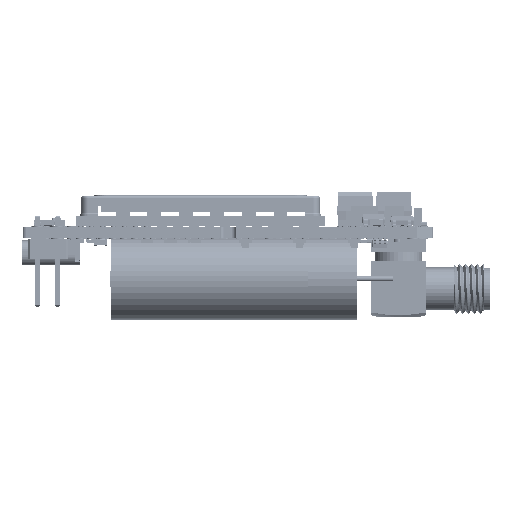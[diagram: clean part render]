
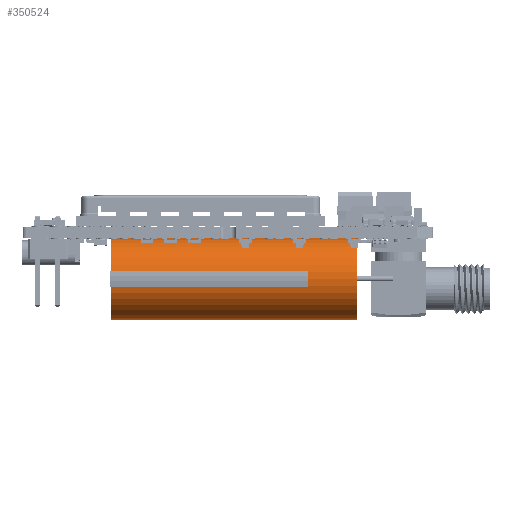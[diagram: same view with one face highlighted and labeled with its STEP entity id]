
A CAD part, front view. The second image highlights one B-rep face of the part: STEP entity #350524.
In plain terms, the highlighted cylindrical face has radius 5.245 mm (diameter 10.49 mm), a full revolution.
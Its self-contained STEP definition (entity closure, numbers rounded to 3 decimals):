
#350524 = ADVANCED_FACE('',(#350525),#350538,.T.);
#350525 = FACE_BOUND('',#350526,.T.);
#350526 = EDGE_LOOP('',(#350527,#350561,#350583,#350614));
#350527 = ORIENTED_EDGE('',*,*,#350528,.F.);
#350528 = EDGE_CURVE('',#350529,#350529,#350531,.T.);
#350529 = VERTEX_POINT('',#350530);
#350530 = CARTESIAN_POINT('',(-2.745,0.,31.242));
#350531 = SURFACE_CURVE('',#350532,(#350537,#350549),.PCURVE_S1.);
#350532 = CIRCLE('',#350533,5.245);
#350533 = AXIS2_PLACEMENT_3D('',#350534,#350535,#350536);
#350534 = CARTESIAN_POINT('',(2.5,0.,31.242));
#350535 = DIRECTION('',(0.,0.,1.));
#350536 = DIRECTION('',(1.,0.,-0.));
#350537 = PCURVE('',#350538,#350543);
#350538 = CYLINDRICAL_SURFACE('',#350539,5.245);
#350539 = AXIS2_PLACEMENT_3D('',#350540,#350541,#350542);
#350540 = CARTESIAN_POINT('',(2.5,0.,0.));
#350541 = DIRECTION('',(0.,0.,1.));
#350542 = DIRECTION('',(1.,0.,-0.));
#350543 = DEFINITIONAL_REPRESENTATION('',(#350544),#350548);
#350544 = LINE('',#350545,#350546);
#350545 = CARTESIAN_POINT('',(0.,31.242));
#350546 = VECTOR('',#350547,1.);
#350547 = DIRECTION('',(1.,0.));
#350548 = ( GEOMETRIC_REPRESENTATION_CONTEXT(2) 
PARAMETRIC_REPRESENTATION_CONTEXT() REPRESENTATION_CONTEXT('2D SPACE',''
  ) );
#350549 = PCURVE('',#350550,#350555);
#350550 = PLANE('',#350551);
#350551 = AXIS2_PLACEMENT_3D('',#350552,#350553,#350554);
#350552 = CARTESIAN_POINT('',(2.5,0.,31.242));
#350553 = DIRECTION('',(0.,0.,1.));
#350554 = DIRECTION('',(0.,1.,0.));
#350555 = DEFINITIONAL_REPRESENTATION('',(#350556),#350560);
#350556 = CIRCLE('',#350557,5.245);
#350557 = AXIS2_PLACEMENT_2D('',#350558,#350559);
#350558 = CARTESIAN_POINT('',(0.,0.));
#350559 = DIRECTION('',(0.,-1.));
#350560 = ( GEOMETRIC_REPRESENTATION_CONTEXT(2) 
PARAMETRIC_REPRESENTATION_CONTEXT() REPRESENTATION_CONTEXT('2D SPACE',''
  ) );
#350561 = ORIENTED_EDGE('',*,*,#350562,.F.);
#350562 = EDGE_CURVE('',#350563,#350529,#350565,.T.);
#350563 = VERTEX_POINT('',#350564);
#350564 = CARTESIAN_POINT('',(-2.745,0.,0.));
#350565 = SEAM_CURVE('',#350566,(#350569,#350576),.PCURVE_S1.);
#350566 = B_SPLINE_CURVE_WITH_KNOTS('',1,(#350567,#350568),
  .UNSPECIFIED.,.F.,.F.,(2,2),(0.,31.242),.PIECEWISE_BEZIER_KNOTS.);
#350567 = CARTESIAN_POINT('',(-2.745,0.,0.));
#350568 = CARTESIAN_POINT('',(-2.745,0.,31.242));
#350569 = PCURVE('',#350538,#350570);
#350570 = DEFINITIONAL_REPRESENTATION('',(#350571),#350575);
#350571 = LINE('',#350572,#350573);
#350572 = CARTESIAN_POINT('',(3.142,0.));
#350573 = VECTOR('',#350574,1.);
#350574 = DIRECTION('',(0.,1.));
#350575 = ( GEOMETRIC_REPRESENTATION_CONTEXT(2) 
PARAMETRIC_REPRESENTATION_CONTEXT() REPRESENTATION_CONTEXT('2D SPACE',''
  ) );
#350576 = PCURVE('',#350538,#350577);
#350577 = DEFINITIONAL_REPRESENTATION('',(#350578),#350582);
#350578 = LINE('',#350579,#350580);
#350579 = CARTESIAN_POINT('',(9.425,0.));
#350580 = VECTOR('',#350581,1.);
#350581 = DIRECTION('',(0.,1.));
#350582 = ( GEOMETRIC_REPRESENTATION_CONTEXT(2) 
PARAMETRIC_REPRESENTATION_CONTEXT() REPRESENTATION_CONTEXT('2D SPACE',''
  ) );
#350583 = ORIENTED_EDGE('',*,*,#350584,.F.);
#350584 = EDGE_CURVE('',#350563,#350563,#350585,.T.);
#350585 = SURFACE_CURVE('',#350586,(#350591,#350598),.PCURVE_S1.);
#350586 = CIRCLE('',#350587,5.245);
#350587 = AXIS2_PLACEMENT_3D('',#350588,#350589,#350590);
#350588 = CARTESIAN_POINT('',(2.5,0.,0.));
#350589 = DIRECTION('',(0.,0.,-1.));
#350590 = DIRECTION('',(1.,0.,0.));
#350591 = PCURVE('',#350538,#350592);
#350592 = DEFINITIONAL_REPRESENTATION('',(#350593),#350597);
#350593 = LINE('',#350594,#350595);
#350594 = CARTESIAN_POINT('',(12.566,0.));
#350595 = VECTOR('',#350596,1.);
#350596 = DIRECTION('',(-1.,0.));
#350597 = ( GEOMETRIC_REPRESENTATION_CONTEXT(2) 
PARAMETRIC_REPRESENTATION_CONTEXT() REPRESENTATION_CONTEXT('2D SPACE',''
  ) );
#350598 = PCURVE('',#350599,#350604);
#350599 = PLANE('',#350600);
#350600 = AXIS2_PLACEMENT_3D('',#350601,#350602,#350603);
#350601 = CARTESIAN_POINT('',(2.5,0.,0.));
#350602 = DIRECTION('',(0.,0.,1.));
#350603 = DIRECTION('',(0.,1.,0.));
#350604 = DEFINITIONAL_REPRESENTATION('',(#350605),#350613);
#350605 = ( BOUNDED_CURVE() B_SPLINE_CURVE(2,(#350606,#350607,#350608,
    #350609,#350610,#350611,#350612),.UNSPECIFIED.,.T.,.F.) 
B_SPLINE_CURVE_WITH_KNOTS((1,2,2,2,2,1),(-2.094,0.,
    2.094,4.189,6.283,8.378),
.UNSPECIFIED.) CURVE() GEOMETRIC_REPRESENTATION_ITEM() 
RATIONAL_B_SPLINE_CURVE((1.,0.5,1.,0.5,1.,0.5,1.)) REPRESENTATION_ITEM(
  '') );
#350606 = CARTESIAN_POINT('',(0.,-5.245));
#350607 = CARTESIAN_POINT('',(-9.085,-5.245));
#350608 = CARTESIAN_POINT('',(-4.542,2.623));
#350609 = CARTESIAN_POINT('',(0.,10.49));
#350610 = CARTESIAN_POINT('',(4.542,2.623));
#350611 = CARTESIAN_POINT('',(9.085,-5.245));
#350612 = CARTESIAN_POINT('',(0.,-5.245));
#350613 = ( GEOMETRIC_REPRESENTATION_CONTEXT(2) 
PARAMETRIC_REPRESENTATION_CONTEXT() REPRESENTATION_CONTEXT('2D SPACE',''
  ) );
#350614 = ORIENTED_EDGE('',*,*,#350562,.T.);
